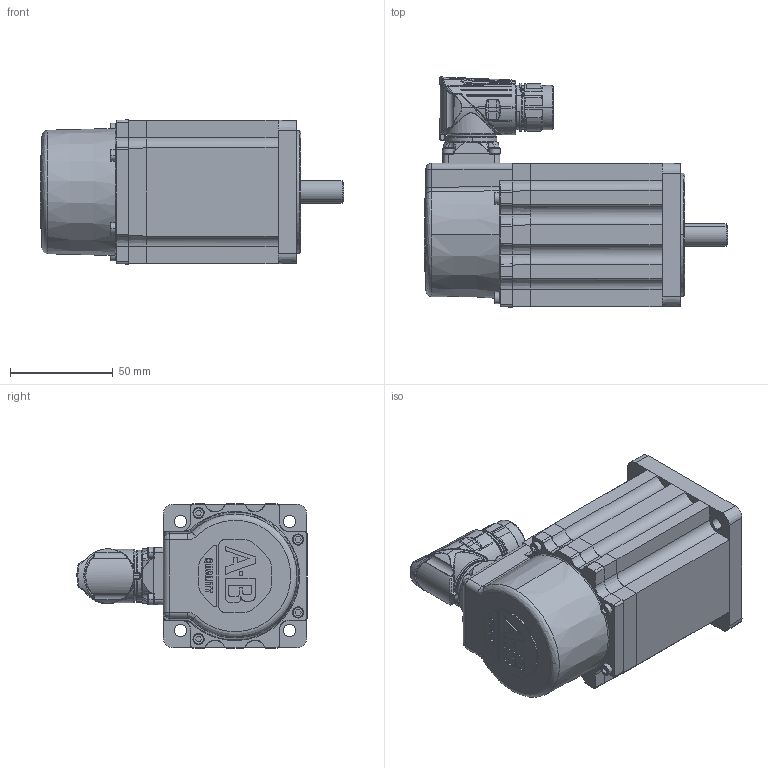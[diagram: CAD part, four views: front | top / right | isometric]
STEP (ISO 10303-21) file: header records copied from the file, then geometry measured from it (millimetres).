
FILE_DESCRIPTION (( 'STEP AP214' ), '1' );
FILE_NAME ('Rockwell Automation-$PARTNUMBER.STEP', '2014-03-26T09:49:10', ( 'Windows User' ), ( '' ), 'SwSTEP 2.0', 'SolidWorks 2014', '' );
FILE_SCHEMA (( 'AUTOMOTIVE_DESIGN' ));
Length unit declared in the file: inch
Products named in the file (26): Rockwell Automation-$PARTNUMBER_Rockwell Automation-VPL-x0751x-xKx2xx_10000014326-M23_ASM; Rockwell Automation-$PARTNUMBER_Rockwell Automation-VPL-x0751x-xKx2xx_10000014326-1; Rockwell Automation-$PARTNUMBER_Rockwell Automation-VPL-x0751x-xKx2xx_10000014325-1; Rockwell Automation-$PARTNUMBER_Rockwell Automation-VPL-x0751x-xKx2xx_10000540833; Rockwell Automation-$PARTNUMBER_Rockwell Automation-VPL-x0751x-xKx2xx_FRONT_without key_1; Rockwell Automation-$PARTNUMBER_Rockwell Automation-VPL-x0751x-xKx2xx_FRONT_1; Rockwell Automation-$PARTNUMBER_Rockwell Automation-VPL-x0751x-xKx2xx_tab; Rockwell Automation-$PARTNUMBER_Rockwell Automation-VPL-x0751x-xKx2xx_10000169222_ANY_1; Rockwell Automation-$PARTNUMBER_Rockwell Automation-VPL-x0751x-xKx2xx_vpl-075_0751_without key; Rockwell Automation-$PARTNUMBER_Rockwell Automation-VPL-x0751x-xKx2xx_10000206536_ASM_ANY_ASM_1; Rockwell Automation-$PARTNUMBER_Rockwell Automation-VPL-x0751x-xKx2xx_without key_3; Rockwell Automation-$PARTNUMBER_Rockwell Automation-VPL-x0751x-xKx2xx_10000206535_AF0_ANY_1; Rockwell Automation-$PARTNUMBER_Rockwell Automation-VPL-x0751x-xKx2xx_REAR_ASM_ANY_ASM; Rockwell Automation-$PARTNUMBER_Rockwell Automation-VPL-x0751x-xKx2xx_10000210273_AF2_ANY_1; Rockwell Automation-$PARTNUMBER_Rockwell Automation-VPL-x0751x-xKx2xx_PRT0002; Rockwell Automation-$PARTNUMBER_Rockwell Automation-VPL-x0751x-xKx2xx_10000213398_ANY_1; Rockwell Automation-$PARTNUMBER_Rockwell Automation-VPL-x0751x-xKx2xx_PRT0001; Rockwell Automation-$PARTNUMBER_Rockwell Automation-VPL-x0751x-xKx2xx_vpl-middle-075_0751-K; Rockwell Automation-$PARTNUMBER_Rockwell Automation-VPL-x0751x-xKx2xx_10000220495_ASM_1_ANY_ASM; Rockwell Automation-$PARTNUMBER_Rockwell Automation-VPL-x0751x-xKx2xx_10000206533_AF0_ANY; Rockwell Automation-$PARTNUMBER; Rockwell Automation-$PARTNUMBER_Rockwell Automation-VPL-x0751x-xKx2xx_10000220495_ASM_ANY; Rockwell Automation-$PARTNUMBER_Rockwell Automation-VPL-x0751x-xKx2xx_10000205606_AF31_ANY; Rockwell Automation-$PARTNUMBER_Rockwell Automation-VPL-x0751x-xKx2xx_10000218021_ANY; Rockwell Automation-$PARTNUMBER_Rockwell Automation-VPL-x0751x-xKx2xx_91290A115_ANY; Rockwell Automation-$PARTNUMBER_Rockwell Automation-VPL-x0751x-xKx2xx_M23_Connector
Assembly tree (35 placements, depth 6):
  Rockwell Automation-$PARTNUMBER_Rockwell Automation-VPL-x0751x-xKx2xx_tab
  Rockwell Automation-$PARTNUMBER
    Rockwell Automation-$PARTNUMBER_Rockwell Automation-VPL-x0751x-xKx2xx_vpl-075_0751_without key
      Rockwell Automation-$PARTNUMBER_Rockwell Automation-VPL-x0751x-xKx2xx_vpl-middle-075_0751-K
      Rockwell Automation-$PARTNUMBER_Rockwell Automation-VPL-x0751x-xKx2xx_FRONT_without key_1
        Rockwell Automation-$PARTNUMBER_Rockwell Automation-VPL-x0751x-xKx2xx_FRONT_1
          Rockwell Automation-$PARTNUMBER_Rockwell Automation-VPL-x0751x-xKx2xx_10000213398_ANY_1
          Rockwell Automation-$PARTNUMBER_Rockwell Automation-VPL-x0751x-xKx2xx_10000206536_ASM_ANY_ASM_1
            Rockwell Automation-$PARTNUMBER_Rockwell Automation-VPL-x0751x-xKx2xx_10000210273_AF2_ANY_1
            Rockwell Automation-$PARTNUMBER_Rockwell Automation-VPL-x0751x-xKx2xx_10000206535_AF0_ANY_1
          Rockwell Automation-$PARTNUMBER_Rockwell Automation-VPL-x0751x-xKx2xx_10000169222_ANY_1  x4
      Rockwell Automation-$PARTNUMBER_Rockwell Automation-VPL-x0751x-xKx2xx_REAR_ASM_ANY_ASM
        Rockwell Automation-$PARTNUMBER_Rockwell Automation-VPL-x0751x-xKx2xx_M23_Connector
          Rockwell Automation-$PARTNUMBER_Rockwell Automation-VPL-x0751x-xKx2xx_10000540833
          Rockwell Automation-$PARTNUMBER_Rockwell Automation-VPL-x0751x-xKx2xx_10000014325-1
          Rockwell Automation-$PARTNUMBER_Rockwell Automation-VPL-x0751x-xKx2xx_10000014326-M23_ASM
            Rockwell Automation-$PARTNUMBER_Rockwell Automation-VPL-x0751x-xKx2xx_10000014326-1
        Rockwell Automation-$PARTNUMBER_Rockwell Automation-VPL-x0751x-xKx2xx_91290A115_ANY  x4
        Rockwell Automation-$PARTNUMBER_Rockwell Automation-VPL-x0751x-xKx2xx_10000218021_ANY  x2
        Rockwell Automation-$PARTNUMBER_Rockwell Automation-VPL-x0751x-xKx2xx_10000220495_ASM_1_ANY_ASM
          Rockwell Automation-$PARTNUMBER_Rockwell Automation-VPL-x0751x-xKx2xx_10000205606_AF31_ANY
          Rockwell Automation-$PARTNUMBER_Rockwell Automation-VPL-x0751x-xKx2xx_10000220495_ASM_ANY  x2
          Rockwell Automation-$PARTNUMBER_Rockwell Automation-VPL-x0751x-xKx2xx_10000206533_AF0_ANY
        Rockwell Automation-$PARTNUMBER_Rockwell Automation-VPL-x0751x-xKx2xx_PRT0001  x4
        Rockwell Automation-$PARTNUMBER_Rockwell Automation-VPL-x0751x-xKx2xx_PRT0002
      Rockwell Automation-$PARTNUMBER_Rockwell Automation-VPL-x0751x-xKx2xx_without key_3
Bounding box: 147.9 x 112.23 x 70.31 mm (x, y, z)
Volume: 242317.5 mm3; surface area: 152071.7 mm2
Topology: 21 solids, 41 shells, 3121 faces, 8572 edges, 5551 vertices
Faces by surface type: cylinder 1014, plane 935, bspline 787, cone 383, torus 2
Entity records: 160150 total; most frequent: CARTESIAN_POINT 87141, ORIENTED_EDGE 14393, DIRECTION 8507, EDGE_CURVE 7215, VERTEX_POINT 4734, B_SPLINE_CURVE_WITH_KNOTS 3657, AXIS2_PLACEMENT_3D 3190, EDGE_LOOP 2765
